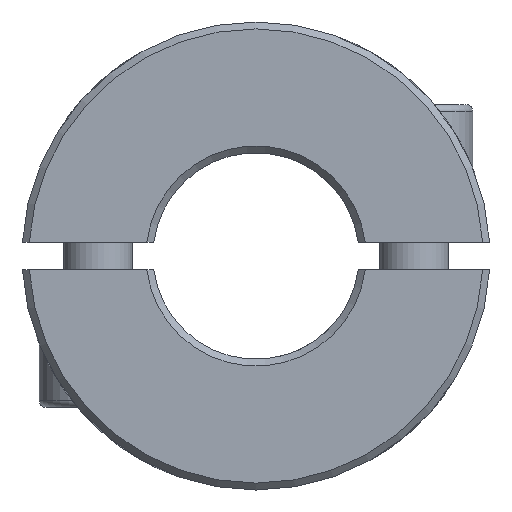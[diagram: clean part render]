
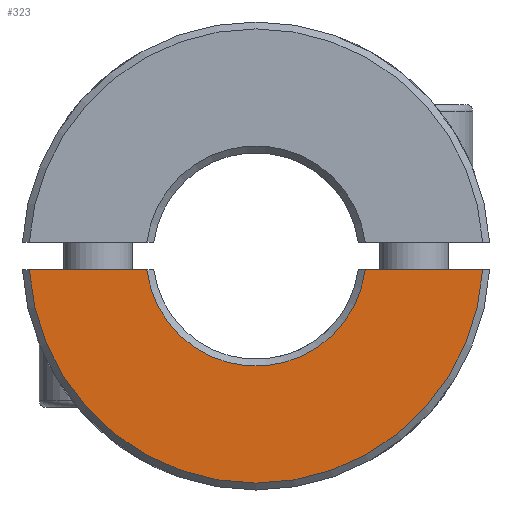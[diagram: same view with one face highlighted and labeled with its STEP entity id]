
A CAD part, front view. The second image highlights one B-rep face of the part: STEP entity #323.
In plain terms, the highlighted planar face has unit normal (0, -1, 0).
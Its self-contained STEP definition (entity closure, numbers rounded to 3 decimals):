
#323 = ADVANCED_FACE( '', ( #624 ), #625, .F. );
#624 = FACE_OUTER_BOUND( '', #944, .T. );
#625 = PLANE( '', #945 );
#944 = EDGE_LOOP( '', ( #1438, #1439, #1440, #1441 ) );
#945 = AXIS2_PLACEMENT_3D( '', #1442, #1443, #1444 );
#1438 = ORIENTED_EDGE( '', *, *, #1749, .F. );
#1439 = ORIENTED_EDGE( '', *, *, #1901, .T. );
#1440 = ORIENTED_EDGE( '', *, *, #1873, .F. );
#1441 = ORIENTED_EDGE( '', *, *, #1843, .T. );
#1442 = CARTESIAN_POINT( '', ( 0., -50., 0. ) );
#1443 = DIRECTION( '', ( 0., 1., 0. ) );
#1444 = DIRECTION( '', ( 0., 0., 1. ) );
#1749 = EDGE_CURVE( '', #2008, #2010, #2011, .T. );
#1843 = EDGE_CURVE( '', #2163, #2010, #2166, .T. );
#1873 = EDGE_CURVE( '', #2163, #2205, #2206, .T. );
#1901 = EDGE_CURVE( '', #2008, #2205, #2245, .F. );
#2008 = VERTEX_POINT( '', #2386 );
#2010 = VERTEX_POINT( '', #2391 );
#2011 = LINE( '', #2392, #2393 );
#2163 = VERTEX_POINT( '', #2825 );
#2166 = CIRCLE( '', #2831, 8. );
#2205 = VERTEX_POINT( '', #3008 );
#2206 = LINE( '', #3009, #3010 );
#2245 = CIRCLE( '', #3307, 16.5 );
#2386 = CARTESIAN_POINT( '', ( -16.47, -50., -1. ) );
#2391 = CARTESIAN_POINT( '', ( -7.937, -50., -1. ) );
#2392 = CARTESIAN_POINT( '', ( 0., -50., -1. ) );
#2393 = VECTOR( '', #3813, 1000. );
#2825 = CARTESIAN_POINT( '', ( 7.937, -50., -1. ) );
#2831 = AXIS2_PLACEMENT_3D( '', #3936, #3937, #3938 );
#3008 = CARTESIAN_POINT( '', ( 16.47, -50., -1. ) );
#3009 = CARTESIAN_POINT( '', ( 0., -50., -1. ) );
#3010 = VECTOR( '', #3974, 1000. );
#3307 = AXIS2_PLACEMENT_3D( '', #3995, #3996, #3997 );
#3813 = DIRECTION( '', ( 1., 0., 0. ) );
#3936 = CARTESIAN_POINT( '', ( 0., -50., 0. ) );
#3937 = DIRECTION( '', ( 0., 1., 0. ) );
#3938 = DIRECTION( '', ( 0., 0., 1. ) );
#3974 = DIRECTION( '', ( 1., 0., 0. ) );
#3995 = CARTESIAN_POINT( '', ( 0., -50., 0. ) );
#3996 = DIRECTION( '', ( 0., 1., 0. ) );
#3997 = DIRECTION( '', ( 0., 0., 1. ) );
